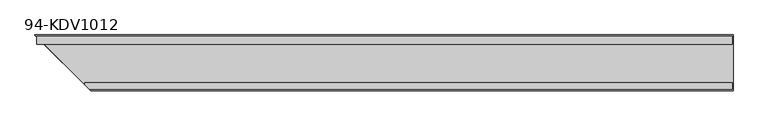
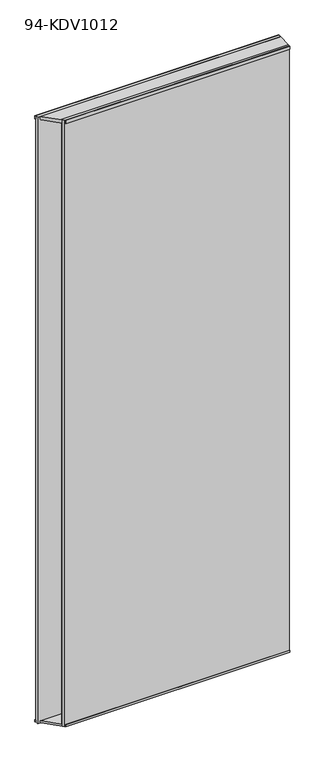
"""IFC4 building model written with IfcOpenShell, lengths in millimetres: plate geometry, PNX_VITRE_DV : 94-KDV1012."""

from ifc_helpers import new_model, si_unit, frame, origin, origin_with_axes, place, context, project, spatial, polyline, outline, extrude, source, transform, mapped, element, save


def plate_94_kdv1012_ec976c5c(model_context):
    return source(origin(), model_context, "Body", "SweptSolid", [
        extrude(outline(polyline([(-467.2, -29.5), (499.0, -29.5), (499.0, -39.5), (-460.5, -39.5), (-467.2, -32.8), (-467.2, -29.5)])), origin_with_axes(), (0.0, 0.0, 1.0), 2739.0),
        extrude(outline(polyline([(499.0, 27.5), (-538.5, 27.5), (-538.5, 39.5), (499.0, 39.5), (499.0, 27.5)])), origin_with_axes(), (0.0, 0.0, 1.0), 2739.0),
        extrude(outline(polyline([(500.0, 41.5), (500.0, -41.5), (-458.5, -41.5), (-541.5, 41.5), (500.0, 41.5)])), frame((0.0, 0.0, 2724.0), z_axis=(0.0, 0.0, 1.0), x_axis=(1.0, 0.0, 0.0)), (0.0, 0.0, 1.0), 15.0),
        extrude(outline(polyline([(-541.5, 41.5), (500.0, 41.5), (500.0, -41.5), (-458.5, -41.5), (-541.5, 41.5)])), origin_with_axes(), (0.0, 0.0, 1.0), 9.0),
    ])


if __name__ == "__main__":
    model = new_model("IFC4")
    model_context = context("Model", 3, world=origin())
    ifc_project = project(units=[si_unit("LENGTHUNIT", "METRE", prefix="MILLI")], contexts=[model_context])
    site = spatial("IfcSite", under=ifc_project)
    building = spatial("IfcBuilding", under=site)
    placement = place(None, origin())
    plate_94_kdv1012_shape = plate_94_kdv1012_ec976c5c(model_context)
    element("IfcPlate", 1, ObjectType="PNX_VITRE_DV : 94-KDV1012", at=placement, inside=building, context=model_context, shape_type="MappedRepresentation", body=[
        mapped(plate_94_kdv1012_shape, transform((0.0, 0.0, 0.0), x_axis=(1.0, 0.0, 0.0), y_axis=(0.0, 1.0, 0.0), z_axis=(0.0, 0.0, 1.0))),
    ])
    save(model, "model.ifc")
